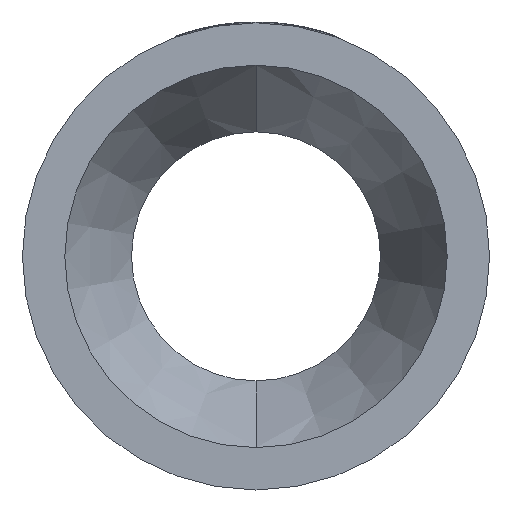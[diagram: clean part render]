
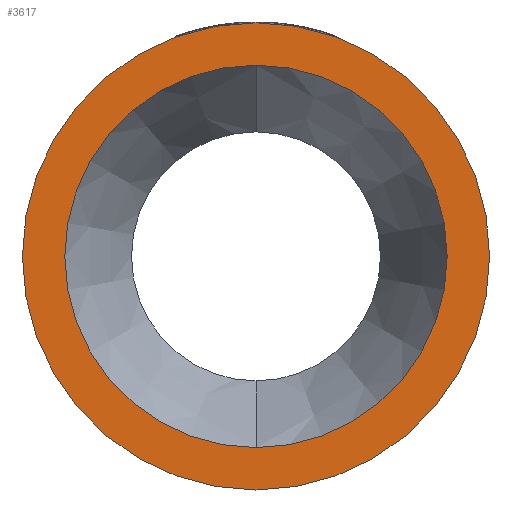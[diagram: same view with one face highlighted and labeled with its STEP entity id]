
A CAD part, left-side view. The second image highlights one B-rep face of the part: STEP entity #3617.
In plain terms, the highlighted planar face has unit normal (-1, 0, 0).
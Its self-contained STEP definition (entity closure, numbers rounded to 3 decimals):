
#50 = DIRECTION ( 'NONE',  ( 0., 0., -1. ) ) ;
#63 = DIRECTION ( 'NONE',  ( 1., 0., 0. ) ) ;
#81 = CARTESIAN_POINT ( 'NONE',  ( 0., 114.6, 0. ) ) ;
#164 = DIRECTION ( 'NONE',  ( 0., 0., 1. ) ) ;
#178 = DIRECTION ( 'NONE',  ( -1., 0., 0. ) ) ;
#204 = CARTESIAN_POINT ( 'NONE',  ( 0., 0., 0. ) ) ;
#235 = PLANE ( 'NONE',  #1952 ) ;
#374 = ORIENTED_EDGE ( 'NONE', *, *, #3046, .F. ) ;
#558 = AXIS2_PLACEMENT_3D ( 'NONE', #3401, #3297, #1514 ) ;
#559 = ORIENTED_EDGE ( 'NONE', *, *, #3035, .T. ) ;
#566 = AXIS2_PLACEMENT_3D ( 'NONE', #1588, #1561, #1551 ) ;
#692 = AXIS2_PLACEMENT_3D ( 'NONE', #2834, #2406, #1971 ) ;
#730 = AXIS2_PLACEMENT_3D ( 'NONE', #204, #178, #164 ) ;
#741 = VERTEX_POINT ( 'NONE', #3108 ) ;
#1483 = VERTEX_POINT ( 'NONE', #2791 ) ;
#1514 = DIRECTION ( 'NONE',  ( 0., 0., 1. ) ) ;
#1551 = DIRECTION ( 'NONE',  ( 0., 0., 1. ) ) ;
#1561 = DIRECTION ( 'NONE',  ( -1., 0., 0. ) ) ;
#1588 = CARTESIAN_POINT ( 'NONE',  ( 0., 0., 0. ) ) ;
#1687 = CARTESIAN_POINT ( 'NONE',  ( 0., 0., 140. ) ) ;
#1769 = CARTESIAN_POINT ( 'NONE',  ( 0., 0., 114.6 ) ) ;
#1952 = AXIS2_PLACEMENT_3D ( 'NONE', #81, #63, #50 ) ;
#1971 = DIRECTION ( 'NONE',  ( 0., 0., 1. ) ) ;
#2036 = VERTEX_POINT ( 'NONE', #1769 ) ;
#2134 = ORIENTED_EDGE ( 'NONE', *, *, #3342, .T. ) ;
#2204 = VERTEX_POINT ( 'NONE', #1687 ) ;
#2327 = CIRCLE ( 'NONE', #558, 140. ) ;
#2373 = CIRCLE ( 'NONE', #566, 114.6 ) ;
#2406 = DIRECTION ( 'NONE',  ( -1., 0., 0. ) ) ;
#2423 = EDGE_LOOP ( 'NONE', ( #2628, #374 ) ) ;
#2487 = CIRCLE ( 'NONE', #730, 140. ) ;
#2628 = ORIENTED_EDGE ( 'NONE', *, *, #3337, .F. ) ;
#2642 = CIRCLE ( 'NONE', #692, 114.6 ) ;
#2780 = EDGE_LOOP ( 'NONE', ( #559, #2134 ) ) ;
#2791 = CARTESIAN_POINT ( 'NONE',  ( 0., 0., -114.6 ) ) ;
#2834 = CARTESIAN_POINT ( 'NONE',  ( 0., 0., 0. ) ) ;
#3035 = EDGE_CURVE ( 'NONE', #2204, #741, #2487, .T. ) ;
#3046 = EDGE_CURVE ( 'NONE', #1483, #2036, #2642, .T. ) ;
#3108 = CARTESIAN_POINT ( 'NONE',  ( 0., 0., -140. ) ) ;
#3297 = DIRECTION ( 'NONE',  ( -1., 0., 0. ) ) ;
#3337 = EDGE_CURVE ( 'NONE', #2036, #1483, #2373, .T. ) ;
#3342 = EDGE_CURVE ( 'NONE', #741, #2204, #2327, .T. ) ;
#3401 = CARTESIAN_POINT ( 'NONE',  ( 0., 0., 0. ) ) ;
#3523 = FACE_BOUND ( 'NONE', #2423, .T. ) ;
#3553 = FACE_OUTER_BOUND ( 'NONE', #2780, .T. ) ;
#3617 = ADVANCED_FACE ( 'NONE', ( #3523, #3553 ), #235, .F. ) ;
